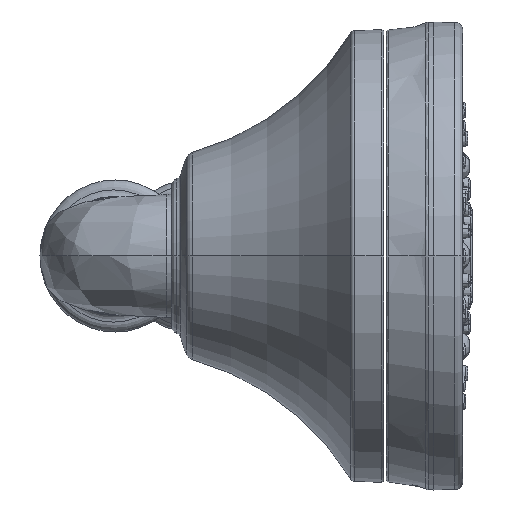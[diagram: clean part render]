
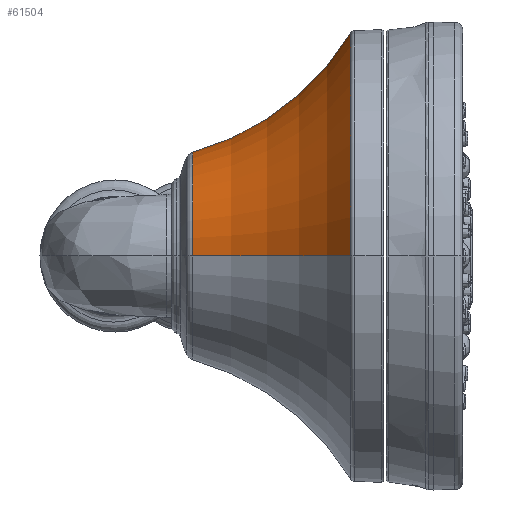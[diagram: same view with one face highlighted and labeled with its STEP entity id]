
A CAD part, left-side view. The second image highlights one B-rep face of the part: STEP entity #61504.
In plain terms, the highlighted toroidal (fillet/blend) face has major radius 80.049 mm and minor radius 59.237 mm.
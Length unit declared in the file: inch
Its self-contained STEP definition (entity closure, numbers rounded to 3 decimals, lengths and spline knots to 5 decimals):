
#1641 = DIRECTION ( 'NONE',  ( 0., 1., 0. ) ) ;
#9177 = ORIENTED_EDGE ( 'NONE', *, *, #68620, .F. ) ;
#10261 = EDGE_LOOP ( 'NONE', ( #26882, #61687, #9177, #111609 ) ) ;
#11657 = DIRECTION ( 'NONE',  ( 1., 0., 0. ) ) ;
#12296 = CARTESIAN_POINT ( 'NONE',  ( 0., 2.28254, 0. ) ) ;
#16485 = VERTEX_POINT ( 'NONE', #55973 ) ;
#16939 = DIRECTION ( 'NONE',  ( -0.964, -0.265, 0. ) ) ;
#23174 = CARTESIAN_POINT ( 'NONE',  ( 1.94509, 0.28668, 0. ) ) ;
#26882 = ORIENTED_EDGE ( 'NONE', *, *, #104973, .T. ) ;
#26975 = DIRECTION ( 'NONE',  ( 0., 0., 1. ) ) ;
#28003 = CIRCLE ( 'NONE', #102610, 0.90272 ) ;
#29555 = AXIS2_PLACEMENT_3D ( 'NONE', #34864, #56264, #97640 ) ;
#34864 = CARTESIAN_POINT ( 'NONE',  ( -3.15156, 2.28254, 0. ) ) ;
#35054 = VERTEX_POINT ( 'NONE', #101292 ) ;
#45581 = EDGE_CURVE ( 'NONE', #76854, #68626, #111220, .T. ) ;
#54157 = EDGE_CURVE ( 'NONE', #16485, #35054, #28003, .T. ) ;
#55973 = CARTESIAN_POINT ( 'NONE',  ( 0.90272, 1.66469, 0. ) ) ;
#56264 = DIRECTION ( 'NONE',  ( 0., 0., -1. ) ) ;
#57699 = CARTESIAN_POINT ( 'NONE',  ( -1.94509, 0.28668, 0. ) ) ;
#60304 = CIRCLE ( 'NONE', #109379, 2.33217 ) ;
#61504 = ADVANCED_FACE ( 'NONE', ( #113791 ), #100903, .F. ) ;
#61687 = ORIENTED_EDGE ( 'NONE', *, *, #45581, .F. ) ;
#62585 = AXIS2_PLACEMENT_3D ( 'NONE', #12296, #1641, #11657 ) ;
#65704 = DIRECTION ( 'NONE',  ( 1., 0., 0. ) ) ;
#66378 = DIRECTION ( 'NONE',  ( 0., -1., 0. ) ) ;
#67590 = CARTESIAN_POINT ( 'NONE',  ( 0., 1.66469, 0. ) ) ;
#68620 = EDGE_CURVE ( 'NONE', #16485, #76854, #60304, .T. ) ;
#68626 = VERTEX_POINT ( 'NONE', #57699 ) ;
#76854 = VERTEX_POINT ( 'NONE', #23174 ) ;
#76952 = DIRECTION ( 'NONE',  ( 1., 0., 0. ) ) ;
#83480 = AXIS2_PLACEMENT_3D ( 'NONE', #87739, #66378, #65704 ) ;
#87138 = CIRCLE ( 'NONE', #29555, 2.33217 ) ;
#87739 = CARTESIAN_POINT ( 'NONE',  ( 0., 0.28668, 0. ) ) ;
#97640 = DIRECTION ( 'NONE',  ( 0.964, -0.265, 0. ) ) ;
#100903 = TOROIDAL_SURFACE ( 'NONE', #62585, 3.15156, 2.33217 ) ;
#101292 = CARTESIAN_POINT ( 'NONE',  ( -0.90272, 1.66469, 0. ) ) ;
#102610 = AXIS2_PLACEMENT_3D ( 'NONE', #67590, #107631, #76952 ) ;
#104973 = EDGE_CURVE ( 'NONE', #35054, #68626, #87138, .T. ) ;
#107631 = DIRECTION ( 'NONE',  ( 0., -1., 0. ) ) ;
#109379 = AXIS2_PLACEMENT_3D ( 'NONE', #118432, #26975, #16939 ) ;
#111220 = CIRCLE ( 'NONE', #83480, 1.94509 ) ;
#111609 = ORIENTED_EDGE ( 'NONE', *, *, #54157, .T. ) ;
#113791 = FACE_OUTER_BOUND ( 'NONE', #10261, .T. ) ;
#118432 = CARTESIAN_POINT ( 'NONE',  ( 3.15156, 2.28254, 0. ) ) ;
